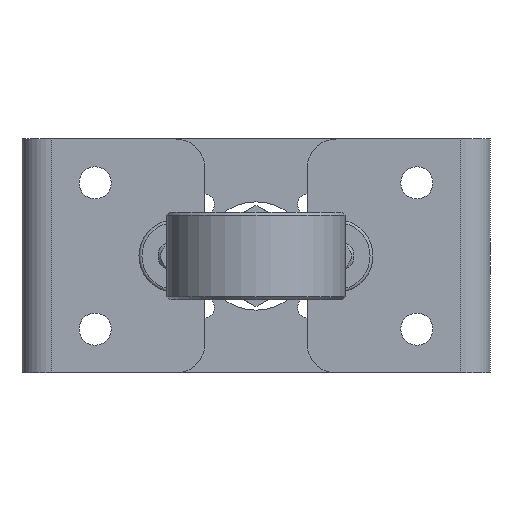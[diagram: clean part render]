
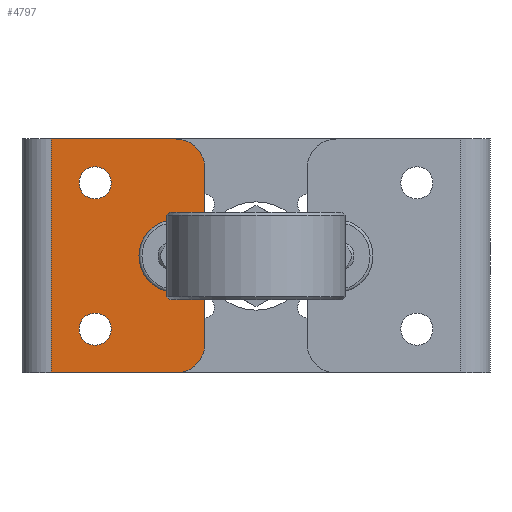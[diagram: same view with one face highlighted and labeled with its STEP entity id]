
A CAD part, front view. The second image highlights one B-rep face of the part: STEP entity #4797.
In plain terms, the highlighted planar face has unit normal (0, -1, 0).
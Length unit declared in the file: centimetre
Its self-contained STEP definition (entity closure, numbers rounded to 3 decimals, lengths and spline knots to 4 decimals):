
#482=FACE_BOUND('',#1104,.T.);
#483=FACE_BOUND('',#1105,.T.);
#776=FACE_OUTER_BOUND('',#1103,.T.);
#1103=EDGE_LOOP('',(#3642,#3643,#3644,#3645,#3646,#3647,#3648,#3649,#3650,
#3651));
#1104=EDGE_LOOP('',(#3652));
#1105=EDGE_LOOP('',(#3653));
#1502=CIRCLE('',#5161,0.55);
#1505=CIRCLE('',#5166,0.55);
#1522=CIRCLE('',#5193,1.);
#1523=CIRCLE('',#5196,1.);
#1524=CIRCLE('',#5197,1.25);
#1710=LINE('',#7203,#2010);
#1712=LINE('',#7207,#2012);
#1714=LINE('',#7211,#2014);
#1715=LINE('',#7213,#2015);
#1716=LINE('',#7215,#2016);
#1717=LINE('',#7217,#2017);
#1718=LINE('',#7220,#2018);
#2010=VECTOR('',#5933,1.75);
#2012=VECTOR('',#5935,1.75);
#2014=VECTOR('',#5939,1.);
#2015=VECTOR('',#5940,4.25);
#2016=VECTOR('',#5941,8.);
#2017=VECTOR('',#5942,4.25);
#2018=VECTOR('',#5945,1.);
#2346=VERTEX_POINT('',#7127);
#2349=VERTEX_POINT('',#7135);
#2373=VERTEX_POINT('',#7196);
#2374=VERTEX_POINT('',#7197);
#2375=VERTEX_POINT('',#7202);
#2376=VERTEX_POINT('',#7204);
#2377=VERTEX_POINT('',#7206);
#2378=VERTEX_POINT('',#7210);
#2379=VERTEX_POINT('',#7212);
#2380=VERTEX_POINT('',#7214);
#2381=VERTEX_POINT('',#7216);
#2382=VERTEX_POINT('',#7219);
#2842=EDGE_CURVE('',#2346,#2346,#1502,.T.);
#2845=EDGE_CURVE('',#2349,#2349,#1505,.T.);
#2872=EDGE_CURVE('',#2373,#2374,#1522,.T.);
#2875=EDGE_CURVE('',#2375,#2374,#1710,.T.);
#2877=EDGE_CURVE('',#2377,#2376,#1712,.T.);
#2879=EDGE_CURVE('',#2378,#2375,#1714,.T.);
#2880=EDGE_CURVE('',#2373,#2379,#1715,.T.);
#2881=EDGE_CURVE('',#2380,#2379,#1716,.T.);
#2882=EDGE_CURVE('',#2380,#2381,#1717,.T.);
#2883=EDGE_CURVE('',#2377,#2381,#1523,.T.);
#2884=EDGE_CURVE('',#2376,#2382,#1718,.T.);
#2885=EDGE_CURVE('',#2378,#2382,#1524,.T.);
#3642=ORIENTED_EDGE('',*,*,#2879,.T.);
#3643=ORIENTED_EDGE('',*,*,#2875,.T.);
#3644=ORIENTED_EDGE('',*,*,#2872,.F.);
#3645=ORIENTED_EDGE('',*,*,#2880,.T.);
#3646=ORIENTED_EDGE('',*,*,#2881,.F.);
#3647=ORIENTED_EDGE('',*,*,#2882,.T.);
#3648=ORIENTED_EDGE('',*,*,#2883,.F.);
#3649=ORIENTED_EDGE('',*,*,#2877,.T.);
#3650=ORIENTED_EDGE('',*,*,#2884,.T.);
#3651=ORIENTED_EDGE('',*,*,#2885,.F.);
#3652=ORIENTED_EDGE('',*,*,#2842,.T.);
#3653=ORIENTED_EDGE('',*,*,#2845,.T.);
#4614=PLANE('',#5195);
#4797=ADVANCED_FACE('',(#776,#482,#483),#4614,.T.);
#5161=AXIS2_PLACEMENT_3D('',#7128,#5853,#5854);
#5166=AXIS2_PLACEMENT_3D('',#7136,#5863,#5864);
#5193=AXIS2_PLACEMENT_3D('',#7198,#5927,#5928);
#5195=AXIS2_PLACEMENT_3D('',#7209,#5937,#5938);
#5196=AXIS2_PLACEMENT_3D('',#7218,#5943,#5944);
#5197=AXIS2_PLACEMENT_3D('',#7221,#5946,#5947);
#5853=DIRECTION('center_axis',(0.,1.,0.));
#5854=DIRECTION('ref_axis',(-1.,0.,0.));
#5863=DIRECTION('center_axis',(0.,1.,0.));
#5864=DIRECTION('ref_axis',(-1.,0.,0.));
#5927=DIRECTION('center_axis',(0.,1.,0.));
#5928=DIRECTION('ref_axis',(0.707,0.,0.707));
#5933=DIRECTION('',(0.,0.,1.));
#5935=DIRECTION('',(0.,0.,1.));
#5937=DIRECTION('center_axis',(0.,-1.,0.));
#5938=DIRECTION('ref_axis',(1.,0.,0.));
#5939=DIRECTION('',(1.,0.,0.));
#5940=DIRECTION('',(-1.,0.,0.));
#5941=DIRECTION('',(0.,0.,1.));
#5942=DIRECTION('',(1.,0.,0.));
#5943=DIRECTION('center_axis',(0.,1.,0.));
#5944=DIRECTION('ref_axis',(0.707,0.,-0.707));
#5945=DIRECTION('',(-1.,0.,0.));
#5946=DIRECTION('center_axis',(0.,-1.,0.));
#5947=DIRECTION('ref_axis',(-0.707,0.,0.707));
#7127=CARTESIAN_POINT('',(-4.95,9.25,-1.));
#7128=CARTESIAN_POINT('Origin',(-5.5,9.25,-1.));
#7135=CARTESIAN_POINT('',(-4.95,9.25,4.));
#7136=CARTESIAN_POINT('Origin',(-5.5,9.25,4.));
#7196=CARTESIAN_POINT('',(-2.75,9.25,5.5));
#7197=CARTESIAN_POINT('',(-1.75,9.25,4.5));
#7198=CARTESIAN_POINT('Origin',(-2.75,9.25,4.5));
#7202=CARTESIAN_POINT('',(-1.75,9.25,2.75));
#7203=CARTESIAN_POINT('',(-1.75,9.25,-0.7703));
#7204=CARTESIAN_POINT('',(-1.75,9.25,0.25));
#7206=CARTESIAN_POINT('',(-1.75,9.25,-1.5));
#7207=CARTESIAN_POINT('',(-1.75,9.25,-0.7703));
#7209=CARTESIAN_POINT('Origin',(0.,9.25,1.5));
#7210=CARTESIAN_POINT('',(-2.75,9.25,2.75));
#7211=CARTESIAN_POINT('',(4.,9.25,2.75));
#7212=CARTESIAN_POINT('',(-7.,9.25,5.5));
#7213=CARTESIAN_POINT('',(-8.,9.25,5.5));
#7214=CARTESIAN_POINT('',(-7.,9.25,-2.5));
#7215=CARTESIAN_POINT('',(-7.,9.25,3.5));
#7216=CARTESIAN_POINT('',(-2.75,9.25,-2.5));
#7217=CARTESIAN_POINT('',(8.,9.25,-2.5));
#7218=CARTESIAN_POINT('Origin',(-2.75,9.25,-1.5));
#7219=CARTESIAN_POINT('',(-2.75,9.25,0.25));
#7220=CARTESIAN_POINT('',(4.,9.25,0.25));
#7221=CARTESIAN_POINT('Origin',(-2.75,9.25,1.5));
